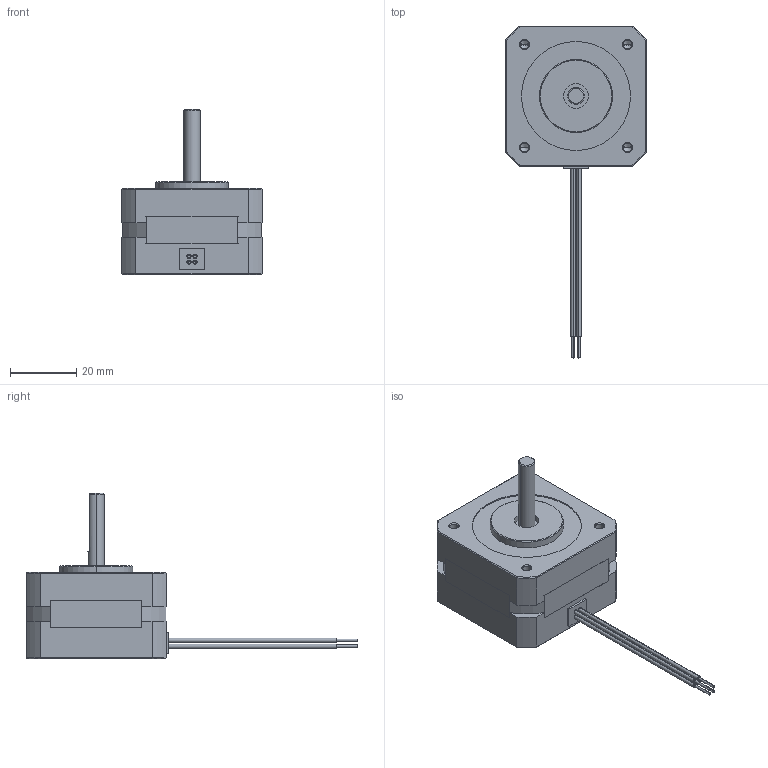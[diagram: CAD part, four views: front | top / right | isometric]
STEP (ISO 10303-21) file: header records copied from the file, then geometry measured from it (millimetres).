
FILE_DESCRIPTION (( 'STEP AP214' ), '1' );
FILE_NAME ('17Y002S-LW4.STEP', '2010-05-11T20:55:57', ( 'Tim Raines' ), ( 'Anaheim Automation' ), 'SwSTEP 2.0', 'SolidWorks 2010', '' );
FILE_SCHEMA (( 'AUTOMOTIVE_DESIGN' ));
Length unit declared in the file: inch
Products named in the file (1): 17Y002S-LW4
Bounding box: 42.16 x 99.95 x 49.89 mm (x, y, z)
Volume: 45995.3 mm3; surface area: 9980 mm2
Topology: 1 solids, 1 shells, 232 faces, 549 edges, 344 vertices
Faces by surface type: plane 113, cylinder 72, cone 39, torus 8
Entity records: 9529 total; most frequent: DIRECTION 1182, CARTESIAN_POINT 1172, ORIENTED_EDGE 1082, EDGE_CURVE 541, AXIS2_PLACEMENT_3D 426, VERTEX_POINT 344, VECTOR 330, LINE 330
